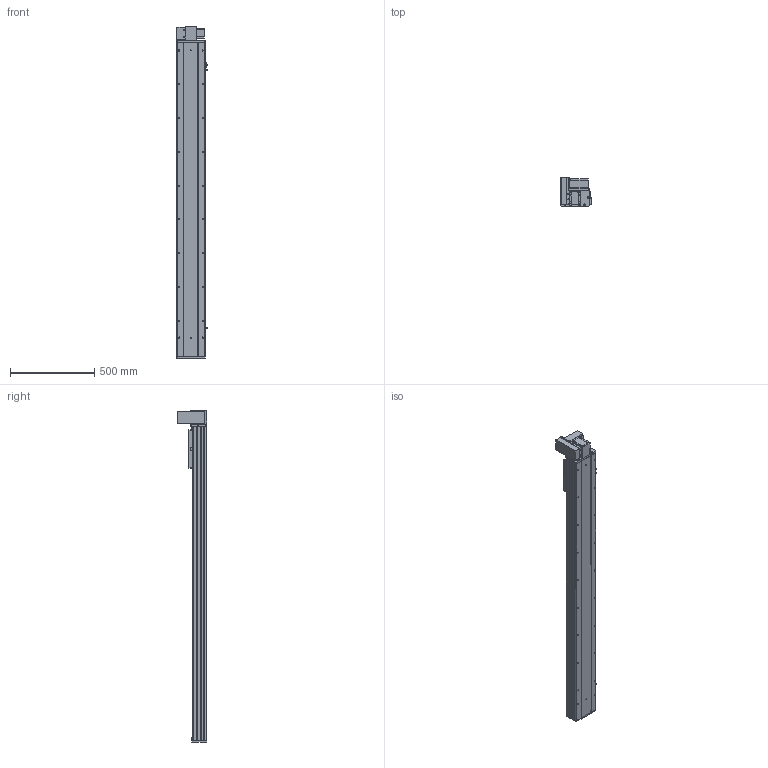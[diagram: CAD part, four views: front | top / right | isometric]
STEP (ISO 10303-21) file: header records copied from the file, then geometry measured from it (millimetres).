
FILE_DESCRIPTION (( 'STEP AP203' ), '1' );
FILE_NAME ('Y170CB-D105-S1550-UL-P400W.STEP', '2020-02-20T02:33:21', ( '微软用户' ), ( '微软中国' ), 'SwSTEP 2.0', 'SolidWorks 2017', '' );
FILE_SCHEMA (( 'CONFIG_CONTROL_DESIGN' ));
Length unit declared in the file: millimetre
Products named in the file (18): 17B-耜蚾蟀諉啣----; 70CB--耜裔; 00B-俋欶BM--163; 70C-雄赽釱-奻-; B-源倛裔啣; Y170CB-D105-S1550-UL-P400W; 0C--雄赽釱俋欶-170; 0B-萇儂楊擘啣; 70CB-詩湍--; san松下电机400不带刹车----; Y100-135俋离換覜ん--; 70CB-掛极-; Y170CB-陔俋离換覜結え---; --70CB --喘謫眊楊擘啣-; 70B喘謫眊----; 70CB-耜裔啣-; Y1埴倛裔; 70C--詩湍揤踡え-
Assembly tree (21 placements, depth 2):
  Y170CB-D105-S1550-UL-P400W
    B-源倛裔啣
    0B-萇儂楊擘啣
    san松下电机400不带刹车----
    70CB-掛极-
    --70CB --喘謫眊楊擘啣-
    70CB-耜裔啣-  x2
    70C--詩湍揤踡え-  x2
    70CB--耜裔
    70C-雄赽釱-奻-
    0C--雄赽釱俋欶-170
    70CB-詩湍--
    Y100-135俋离換覜ん--  x3
    Y170CB-陔俋离換覜結え---
    70B喘謫眊----
    Y1埴倛裔
    17B-耜蚾蟀諉啣----
    00B-俋欶BM--163
Bounding box: 183.5 x 174 x 1966 mm (x, y, z)
Volume: 8704776.9 mm3; surface area: 3132379.9 mm2
Topology: 21 solids, 21 shells, 1031 faces, 2765 edges, 1834 vertices
Faces by surface type: cylinder 545, plane 462, cone 24
Entity records: 32912 total; most frequent: CARTESIAN_POINT 6036, DIRECTION 5354, ORIENTED_EDGE 5012, EDGE_CURVE 2506, AXIS2_PLACEMENT_3D 1968, VERTEX_POINT 1664, LINE 1418, VECTOR 1418
